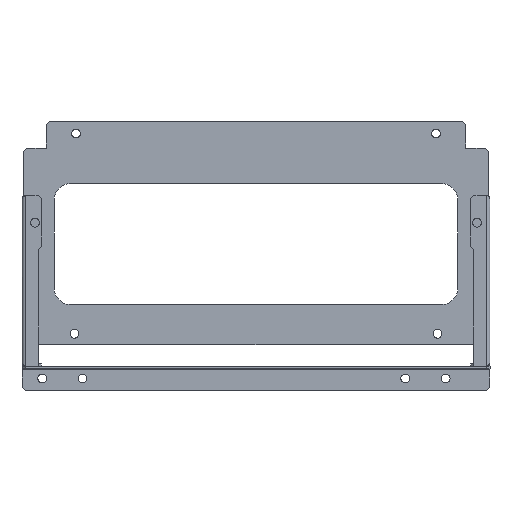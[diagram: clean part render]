
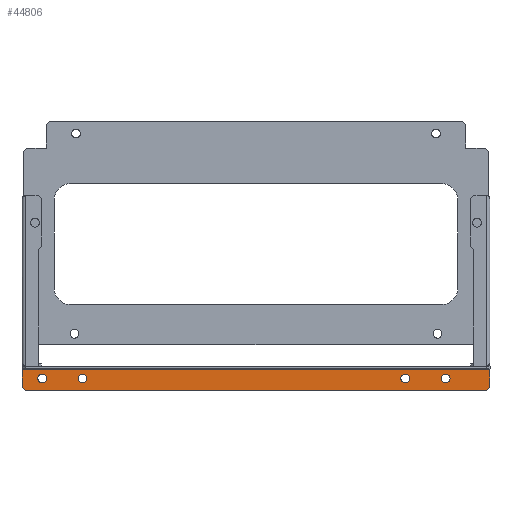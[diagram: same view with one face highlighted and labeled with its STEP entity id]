
A CAD part, left-side view. The second image highlights one B-rep face of the part: STEP entity #44806.
In plain terms, the highlighted planar face has unit normal (-1, 0, 0) as drawn and (1, 0, 0) by its records, which use the part's own axes.
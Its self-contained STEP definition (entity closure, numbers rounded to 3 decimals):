
#43511=CARTESIAN_POINT(' ',(-97.5,-92.5,8.75));
#43512=VERTEX_POINT(' ',#43511);
#43526=CARTESIAN_POINT(' ',(-97.5,-92.5,6.));
#43531=DIRECTION(' ',(1.,0.,0.));
#43536=DIRECTION(' ',(0.,0.,1.));
#43541=AXIS2_PLACEMENT_3D(' ',#43526,#43531,#43536);
#43546=CIRCLE('',#43541,2.75);
#43551=CARTESIAN_POINT(' ',(-97.5,-92.5,3.25));
#43552=VERTEX_POINT(' ',#43551);
#43556=EDGE_CURVE(' ',#43512,#43552,#43546,.T.);
#44221=CARTESIAN_POINT(' ',(-97.5,-92.5,6.));
#44226=DIRECTION(' ',(1.,0.,0.));
#44231=DIRECTION(' ',(0.,0.,-1.));
#44236=AXIS2_PLACEMENT_3D(' ',#44221,#44226,#44231);
#44241=CIRCLE('',#44236,2.75);
#44246=EDGE_CURVE(' ',#43552,#43512,#44241,.T.);
#44271=DIRECTION(' ',(1.,0.,0.));
#44276=CARTESIAN_POINT(' ',(-97.5,-145.,13.5));
#44281=DIRECTION(' ',(0.,0.,-1.));
#44286=AXIS2_PLACEMENT_3D(' ',#44276,#44271,#44281);
#44291=PLANE('NONE',#44286);
#44296=CARTESIAN_POINT(' ',(-97.5,-143.,13.5));
#44301=DIRECTION(' ',(0.,1.,0.));
#44306=VECTOR(' ',#44301,1.);
#44311=LINE('',#44296,#44306);
#44316=CARTESIAN_POINT(' ',(-97.5,-143.,13.5));
#44317=VERTEX_POINT(' ',#44316);
#44321=CARTESIAN_POINT(' ',(-97.5,143.,13.5));
#44322=VERTEX_POINT(' ',#44321);
#44326=EDGE_CURVE(' ',#44317,#44322,#44311,.T.);
#44331=ORIENTED_EDGE(' ',*,*,#44326,.F.);
#44336=CARTESIAN_POINT(' ',(-97.5,-143.,13.5));
#44341=DIRECTION(' ',(0.,-0.707,-0.707));
#44346=VECTOR(' ',#44341,1.);
#44351=LINE('',#44336,#44346);
#44356=CARTESIAN_POINT(' ',(-97.5,-145.,11.5));
#44357=VERTEX_POINT(' ',#44356);
#44361=EDGE_CURVE(' ',#44317,#44357,#44351,.T.);
#44366=ORIENTED_EDGE(' ',*,*,#44361,.T.);
#44371=CARTESIAN_POINT(' ',(-97.5,-145.,0.6));
#44376=DIRECTION(' ',(0.,0.,1.));
#44381=VECTOR(' ',#44376,1.);
#44386=LINE('',#44371,#44381);
#44391=CARTESIAN_POINT(' ',(-97.5,-145.,0.6));
#44392=VERTEX_POINT(' ',#44391);
#44396=EDGE_CURVE(' ',#44392,#44357,#44386,.T.);
#44401=ORIENTED_EDGE(' ',*,*,#44396,.F.);
#44406=CARTESIAN_POINT(' ',(-97.5,145.,0.6));
#44411=DIRECTION(' ',(0.,-1.,0.));
#44416=VECTOR(' ',#44411,1.);
#44421=LINE('',#44406,#44416);
#44426=CARTESIAN_POINT(' ',(-97.5,145.,0.6));
#44427=VERTEX_POINT(' ',#44426);
#44431=EDGE_CURVE(' ',#44427,#44392,#44421,.T.);
#44436=ORIENTED_EDGE(' ',*,*,#44431,.F.);
#44441=CARTESIAN_POINT(' ',(-97.5,145.,11.5));
#44446=DIRECTION(' ',(0.,0.,-1.));
#44451=VECTOR(' ',#44446,1.);
#44456=LINE('',#44441,#44451);
#44461=CARTESIAN_POINT(' ',(-97.5,145.,11.5));
#44462=VERTEX_POINT(' ',#44461);
#44466=EDGE_CURVE(' ',#44462,#44427,#44456,.T.);
#44471=ORIENTED_EDGE(' ',*,*,#44466,.F.);
#44476=CARTESIAN_POINT(' ',(-97.5,145.,11.5));
#44481=DIRECTION(' ',(0.,-0.707,0.707));
#44486=VECTOR(' ',#44481,1.);
#44491=LINE('',#44476,#44486);
#44496=EDGE_CURVE(' ',#44462,#44322,#44491,.T.);
#44501=ORIENTED_EDGE(' ',*,*,#44496,.T.);
#44506=EDGE_LOOP(' ',(#44331,#44366,#44401,#44436,#44471,#44501));
#44511=FACE_OUTER_BOUND(' ',#44506,.T.);
#44516=ORIENTED_EDGE(' ',*,*,#44246,.F.);
#44521=ORIENTED_EDGE(' ',*,*,#43556,.F.);
#44526=EDGE_LOOP(' ',(#44516,#44521));
#44531=FACE_BOUND(' ',#44526,.T.);
#44536=CARTESIAN_POINT(' ',(-97.5,132.5,6.));
#44541=DIRECTION(' ',(-1.,0.,0.));
#44546=DIRECTION(' ',(0.,0.,1.));
#44551=AXIS2_PLACEMENT_3D(' ',#44536,#44541,#44546);
#44556=CIRCLE('',#44551,2.75);
#44561=CARTESIAN_POINT(' ',(-97.5,132.5,8.75));
#44562=VERTEX_POINT(' ',#44561);
#44566=CARTESIAN_POINT(' ',(-97.5,132.5,3.25));
#44567=VERTEX_POINT(' ',#44566);
#44571=EDGE_CURVE(' ',#44562,#44567,#44556,.T.);
#44576=ORIENTED_EDGE(' ',*,*,#44571,.T.);
#44581=CARTESIAN_POINT(' ',(-97.5,132.5,6.));
#44586=DIRECTION(' ',(-1.,0.,0.));
#44591=DIRECTION(' ',(0.,0.,-1.));
#44596=AXIS2_PLACEMENT_3D(' ',#44581,#44586,#44591);
#44601=CIRCLE('',#44596,2.75);
#44606=EDGE_CURVE(' ',#44567,#44562,#44601,.T.);
#44611=ORIENTED_EDGE(' ',*,*,#44606,.T.);
#44616=EDGE_LOOP(' ',(#44576,#44611));
#44621=FACE_BOUND(' ',#44616,.T.);
#44626=CARTESIAN_POINT(' ',(-97.5,-117.5,6.));
#44631=DIRECTION(' ',(-1.,0.,0.));
#44636=DIRECTION(' ',(0.,0.,1.));
#44641=AXIS2_PLACEMENT_3D(' ',#44626,#44631,#44636);
#44646=CIRCLE('',#44641,2.75);
#44651=CARTESIAN_POINT(' ',(-97.5,-117.5,8.75));
#44652=VERTEX_POINT(' ',#44651);
#44656=CARTESIAN_POINT(' ',(-97.5,-117.5,3.25));
#44657=VERTEX_POINT(' ',#44656);
#44661=EDGE_CURVE(' ',#44652,#44657,#44646,.T.);
#44666=ORIENTED_EDGE(' ',*,*,#44661,.T.);
#44671=CARTESIAN_POINT(' ',(-97.5,-117.5,6.));
#44676=DIRECTION(' ',(-1.,0.,0.));
#44681=DIRECTION(' ',(0.,0.,-1.));
#44686=AXIS2_PLACEMENT_3D(' ',#44671,#44676,#44681);
#44691=CIRCLE('',#44686,2.75);
#44696=EDGE_CURVE(' ',#44657,#44652,#44691,.T.);
#44701=ORIENTED_EDGE(' ',*,*,#44696,.T.);
#44706=EDGE_LOOP(' ',(#44666,#44701));
#44711=FACE_BOUND(' ',#44706,.T.);
#44716=CARTESIAN_POINT(' ',(-97.5,107.5,6.));
#44721=DIRECTION(' ',(1.,0.,0.));
#44726=DIRECTION(' ',(0.,0.,-1.));
#44731=AXIS2_PLACEMENT_3D(' ',#44716,#44721,#44726);
#44736=CIRCLE('',#44731,2.75);
#44741=CARTESIAN_POINT(' ',(-97.5,107.5,3.25));
#44742=VERTEX_POINT(' ',#44741);
#44746=CARTESIAN_POINT(' ',(-97.5,107.5,8.75));
#44747=VERTEX_POINT(' ',#44746);
#44751=EDGE_CURVE(' ',#44742,#44747,#44736,.T.);
#44756=ORIENTED_EDGE(' ',*,*,#44751,.F.);
#44761=CARTESIAN_POINT(' ',(-97.5,107.5,6.));
#44766=DIRECTION(' ',(1.,0.,0.));
#44771=DIRECTION(' ',(0.,0.,1.));
#44776=AXIS2_PLACEMENT_3D(' ',#44761,#44766,#44771);
#44781=CIRCLE('',#44776,2.75);
#44786=EDGE_CURVE(' ',#44747,#44742,#44781,.T.);
#44791=ORIENTED_EDGE(' ',*,*,#44786,.F.);
#44796=EDGE_LOOP(' ',(#44756,#44791));
#44801=FACE_BOUND(' ',#44796,.T.);
#44806=ADVANCED_FACE('NONE',(#44511,#44531,#44621,#44711,#44801),#44291,.T.);
